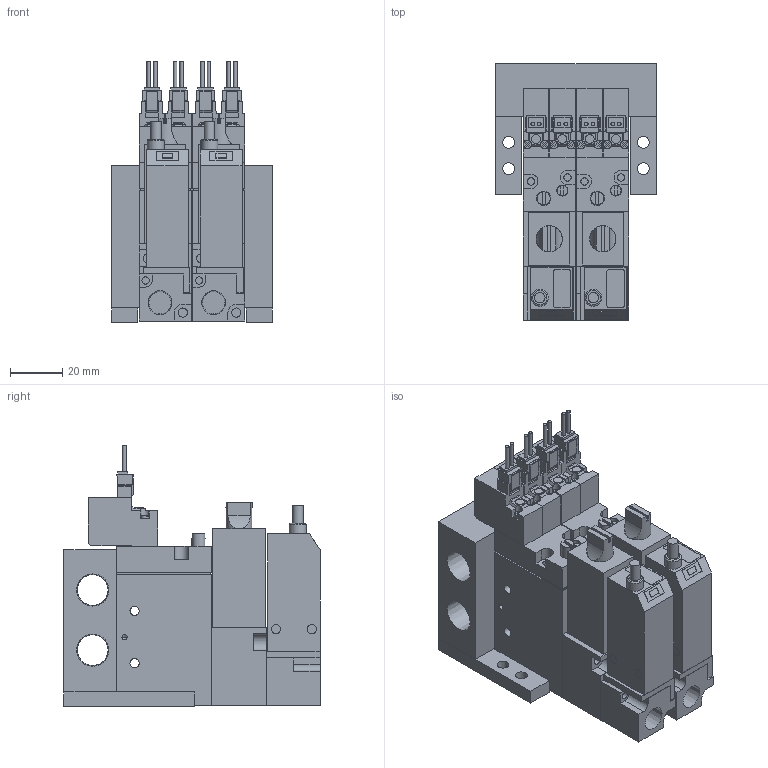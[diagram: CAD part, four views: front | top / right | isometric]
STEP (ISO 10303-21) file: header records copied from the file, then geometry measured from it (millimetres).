
FILE_DESCRIPTION(('STEP AP203'),'1');
FILE_NAME('BMPV32M2NAB25BL202.stp','2025-06-17T00:15:34',(' '),(' '),'Spatial InterOp 3D',' ',' ');
FILE_SCHEMA(('CONFIG_CONTROL_DESIGN'));
Length unit declared in the file: millimetre
Products named in the file (28): BMPV32M2NAB25BL202; MB BRACKET; Filter Assy; __; _____; MB02; Pressure sensor ABSL; ___ ___2; ___-2(Rc); ___; upper plate-A; ______; ____; VACUUM VALVE FUNCTION MPV42-A
Assembly tree (27 placements, depth 2):
  BMPV32M2NAB25BL202
    MB BRACKET
    Filter Assy
    __
    _____
    MB02
    Filter Assy
    __
    _____
    Pressure sensor ABSL
    MB BRACKET
    ___ ___2
    ___-2(Rc)
    ___-2(Rc)
    ___ ___2
    Pressure sensor ABSL
    ___
    upper plate-A
    ______
    ____
    VACUUM VALVE FUNCTION MPV42-A
    VACUUM VALVE FUNCTION MPV42-A
    ___
    upper plate-A
    ______
    ____
    VACUUM VALVE FUNCTION MPV42-A
    VACUUM VALVE FUNCTION MPV42-A
Bounding box: 61.5 x 98 x 99.75 mm (x, y, z)
Volume: 253155.1 mm3; surface area: 85578.1 mm2
Topology: 27 solids, 27 shells, 783 faces, 2020 edges, 1342 vertices
Faces by surface type: plane 617, cylinder 144, cone 20, torus 2
Full cylindrical faces by diameter (mm): 1.4 x8, 1.8 x4, 2 x4, 2.5 x8, 2.8 x8, 3 x8, 3.5 x28, 4 x4, 4.2 x2, 4.5 x4, 5 x2, 5.5 x2, 6.5 x8, 8.522 x2, 11.776 x2
Entity records: 24450 total; most frequent: CARTESIAN_POINT 4137, DIRECTION 3842, ORIENTED_EDGE 3724, EDGE_CURVE 1862, LINE 1488, VECTOR 1488, VERTEX_POINT 1316, AXIS2_PLACEMENT_3D 1177
